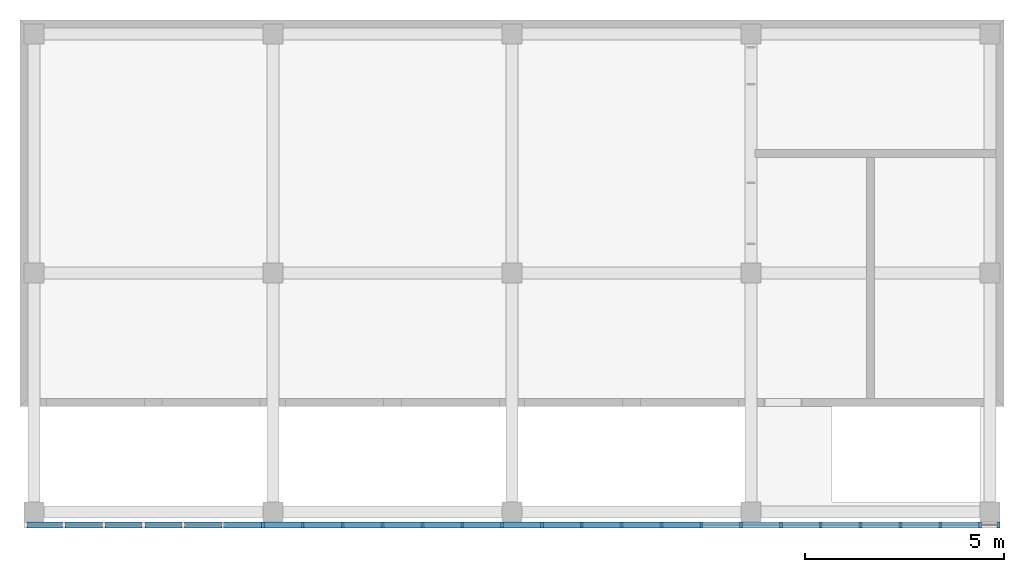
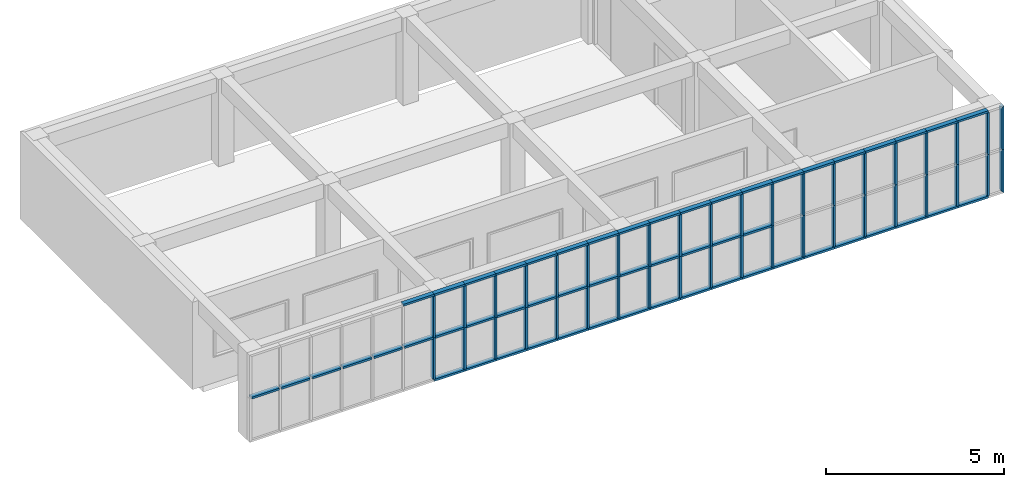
# One storey, part 3 of 4: 94 discrete accessories, 1 element without a shape of its own.
"""IFC2X3 building model written with IfcOpenShell, lengths in millimetres."""

from ifc_helpers import new_model, entity, si_unit, converted_unit, direction, frame, origin_with_axes, place, context, project, spatial, polyline, outline, extrude, source, transform, mapped, type_object, element, aggregate, save


model = new_model("IFC2X3")

# Units and contexts
model_context = context("Model", 3, precision=1e-05, world=origin_with_axes(), true_north=direction((6.123234e-17, 1.0)))
plan_context = context("Plan", 3, precision=1e-05, world=origin_with_axes(), true_north=direction((6.123234e-17, 1.0)))
ifc_project = project(units=[si_unit("LENGTHUNIT", "METRE", prefix="MILLI"), si_unit("AREAUNIT", "SQUARE_METRE"), si_unit("VOLUMEUNIT", "CUBIC_METRE"), converted_unit("PLANEANGLEUNIT", "DEGREE", entity("IfcPlaneAngleMeasure", 0.017453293), si_unit("PLANEANGLEUNIT", "RADIAN"), dimensions=[0, 0, 0, 0, 0, 0, 0]), si_unit("SOLIDANGLEUNIT", "STERADIAN"), si_unit("MASSUNIT", "GRAM"), si_unit("TIMEUNIT", "SECOND"), si_unit("THERMODYNAMICTEMPERATUREUNIT", "DEGREE_CELSIUS"), si_unit("LUMINOUSINTENSITYUNIT", "LUMEN")], contexts=[model_context, plan_context])

# Site, building, storey
site_placement = place(None, origin_with_axes())
site = spatial("IfcSite", under=ifc_project, at=site_placement, Name="\x8aO\x8d\\", CompositionType="ELEMENT")
building_placement = place(site_placement, origin_with_axes())
building = spatial("IfcBuilding", under=site, at=building_placement, Name="20101105_ArchCADMagic_002", CompositionType="ELEMENT")
storey_placement = place(building_placement, frame((0.0, 0.0, 6450.0), z_axis=(0.0, 0.0, 1.0), x_axis=(1.0, 0.0, 0.0)))
storey = spatial("IfcBuildingStorey", under=building, at=storey_placement, Name="2. 3\x8aK", CompositionType="ELEMENT", Elevation=6450.0)

# Curtain wall, discrete accessories
curtain_wall_placement = place(storey_placement, frame((-250.0, -325.0, 0.0), z_axis=(0.0, 0.0, 1.0), x_axis=(1.0, 0.0, 0.0)))
curtain_wall = element("IfcCurtainWall", 1, at=curtain_wall_placement, inside=storey, Name="CW5")
discrete_accessory_type = type_object("IfcDiscreteAccessoryType", Name="AC12_CW_Frame")
shared_shape_1 = source(origin_with_axes(), model_context, "Body", "SweptSolid", [
    extrude(outline(polyline([(0.0, 0.0), (150.0, 0.0), (150.0, -1000.0), (5.5511151e-14, -1000.0), (0.0, 0.0)])), origin_with_axes(), (0.0, 0.0, 1.0), 70.0),
])
discrete_accessory_1_placement = place(storey_placement, frame((5750.0, -250.0, 70.0), z_axis=(0.0, 0.0, -1.0), x_axis=(0.0, -1.0, 0.0)))
discrete_accessory_1 = element("IfcDiscreteAccessory", 2, at=discrete_accessory_1_placement, type_object=discrete_accessory_type, Name="\x8b«\x8aE-729", context=model_context, shape_type="MappedRepresentation", body=[
    mapped(shared_shape_1, transform((0.0, 0.0, 0.0), scale=1.0)),
])
discrete_accessory_2_placement = place(storey_placement, frame((6750.0, -250.0, 70.0), z_axis=(0.0, 0.0, -1.0), x_axis=(0.0, -1.0, 0.0)))
discrete_accessory_2 = element("IfcDiscreteAccessory", 3, at=discrete_accessory_2_placement, type_object=discrete_accessory_type, Name="\x8b«\x8aE-730", context=model_context, shape_type="MappedRepresentation", body=[
    mapped(shared_shape_1, transform((0.0, 0.0, 0.0), scale=1.0)),
])
discrete_accessory_3_placement = place(storey_placement, frame((7750.0, -250.0, 70.0), z_axis=(0.0, 0.0, -1.0), x_axis=(0.0, -1.0, 0.0)))
discrete_accessory_3 = element("IfcDiscreteAccessory", 4, at=discrete_accessory_3_placement, type_object=discrete_accessory_type, Name="\x8b«\x8aE-731", context=model_context, shape_type="MappedRepresentation", body=[
    mapped(shared_shape_1, transform((0.0, 0.0, 0.0), scale=1.0)),
])
discrete_accessory_4_placement = place(storey_placement, frame((8750.0, -250.0, 70.0), z_axis=(0.0, 0.0, -1.0), x_axis=(0.0, -1.0, 0.0)))
discrete_accessory_4 = element("IfcDiscreteAccessory", 5, at=discrete_accessory_4_placement, type_object=discrete_accessory_type, Name="\x8b«\x8aE-732", context=model_context, shape_type="MappedRepresentation", body=[
    mapped(shared_shape_1, transform((0.0, 0.0, 0.0), scale=1.0)),
])
discrete_accessory_5_placement = place(storey_placement, frame((9750.0, -250.0, 70.0), z_axis=(0.0, 0.0, -1.0), x_axis=(0.0, -1.0, 0.0)))
discrete_accessory_5 = element("IfcDiscreteAccessory", 6, at=discrete_accessory_5_placement, type_object=discrete_accessory_type, Name="\x8b«\x8aE-733", context=model_context, shape_type="MappedRepresentation", body=[
    mapped(shared_shape_1, transform((0.0, 0.0, 0.0), scale=1.0)),
])
discrete_accessory_6_placement = place(storey_placement, frame((10750.0, -250.0, 70.0), z_axis=(0.0, 0.0, -1.0), x_axis=(0.0, -1.0, 0.0)))
discrete_accessory_6 = element("IfcDiscreteAccessory", 7, at=discrete_accessory_6_placement, type_object=discrete_accessory_type, Name="\x8b«\x8aE-734", context=model_context, shape_type="MappedRepresentation", body=[
    mapped(shared_shape_1, transform((0.0, 0.0, 0.0), scale=1.0)),
])
discrete_accessory_7_placement = place(storey_placement, frame((11750.0, -250.0, 70.0), z_axis=(0.0, 0.0, -1.0), x_axis=(0.0, -1.0, 0.0)))
discrete_accessory_7 = element("IfcDiscreteAccessory", 8, at=discrete_accessory_7_placement, type_object=discrete_accessory_type, Name="\x8b«\x8aE-735", context=model_context, shape_type="MappedRepresentation", body=[
    mapped(shared_shape_1, transform((0.0, 0.0, 0.0), scale=1.0)),
])
discrete_accessory_8_placement = place(storey_placement, frame((12750.0, -250.0, 70.0), z_axis=(0.0, 0.0, -1.0), x_axis=(0.0, -1.0, 0.0)))
discrete_accessory_8 = element("IfcDiscreteAccessory", 9, at=discrete_accessory_8_placement, type_object=discrete_accessory_type, Name="\x8b«\x8aE-736", context=model_context, shape_type="MappedRepresentation", body=[
    mapped(shared_shape_1, transform((0.0, 0.0, 0.0), scale=1.0)),
])
discrete_accessory_9_placement = place(storey_placement, frame((13750.0, -250.0, 70.0), z_axis=(0.0, 0.0, -1.0), x_axis=(0.0, -1.0, 0.0)))
discrete_accessory_9 = element("IfcDiscreteAccessory", 10, at=discrete_accessory_9_placement, type_object=discrete_accessory_type, Name="\x8b«\x8aE-737", context=model_context, shape_type="MappedRepresentation", body=[
    mapped(shared_shape_1, transform((0.0, 0.0, 0.0), scale=1.0)),
])
discrete_accessory_10_placement = place(storey_placement, frame((14750.0, -250.0, 70.0), z_axis=(0.0, 0.0, -1.0), x_axis=(0.0, -1.0, 0.0)))
discrete_accessory_10 = element("IfcDiscreteAccessory", 11, at=discrete_accessory_10_placement, type_object=discrete_accessory_type, Name="\x8b«\x8aE-738", context=model_context, shape_type="MappedRepresentation", body=[
    mapped(shared_shape_1, transform((0.0, 0.0, 0.0), scale=1.0)),
])
discrete_accessory_11_placement = place(storey_placement, frame((15750.0, -250.0, 70.0), z_axis=(0.0, 0.0, -1.0), x_axis=(0.0, -1.0, 0.0)))
discrete_accessory_11 = element("IfcDiscreteAccessory", 12, at=discrete_accessory_11_placement, type_object=discrete_accessory_type, Name="\x8b«\x8aE-739", context=model_context, shape_type="MappedRepresentation", body=[
    mapped(shared_shape_1, transform((0.0, 0.0, 0.0), scale=1.0)),
])
discrete_accessory_12_placement = place(storey_placement, frame((16750.0, -250.0, 70.0), z_axis=(0.0, 0.0, -1.0), x_axis=(0.0, -1.0, 0.0)))
discrete_accessory_12 = element("IfcDiscreteAccessory", 13, at=discrete_accessory_12_placement, type_object=discrete_accessory_type, Name="\x8b«\x8aE-740", context=model_context, shape_type="MappedRepresentation", body=[
    mapped(shared_shape_1, transform((0.0, 0.0, 0.0), scale=1.0)),
])
discrete_accessory_13_placement = place(storey_placement, frame((17750.0, -250.0, 70.0), z_axis=(0.0, 0.0, -1.0), x_axis=(0.0, -1.0, 0.0)))
discrete_accessory_13 = element("IfcDiscreteAccessory", 14, at=discrete_accessory_13_placement, type_object=discrete_accessory_type, Name="\x8b«\x8aE-741", context=model_context, shape_type="MappedRepresentation", body=[
    mapped(shared_shape_1, transform((0.0, 0.0, 0.0), scale=1.0)),
])
discrete_accessory_14_placement = place(storey_placement, frame((18750.0, -250.0, 70.0), z_axis=(0.0, 0.0, -1.0), x_axis=(0.0, -1.0, 0.0)))
discrete_accessory_14 = element("IfcDiscreteAccessory", 15, at=discrete_accessory_14_placement, type_object=discrete_accessory_type, Name="\x8b«\x8aE-742", context=model_context, shape_type="MappedRepresentation", body=[
    mapped(shared_shape_1, transform((0.0, 0.0, 0.0), scale=1.0)),
])
discrete_accessory_15_placement = place(storey_placement, frame((19750.0, -250.0, 70.0), z_axis=(0.0, 0.0, -1.0), x_axis=(0.0, -1.0, 0.0)))
discrete_accessory_15 = element("IfcDiscreteAccessory", 16, at=discrete_accessory_15_placement, type_object=discrete_accessory_type, Name="\x8b«\x8aE-743", context=model_context, shape_type="MappedRepresentation", body=[
    mapped(shared_shape_1, transform((0.0, 0.0, 0.0), scale=1.0)),
])
discrete_accessory_16_placement = place(storey_placement, frame((20750.0, -250.0, 70.0), z_axis=(0.0, 0.0, -1.0), x_axis=(0.0, -1.0, 0.0)))
discrete_accessory_16 = element("IfcDiscreteAccessory", 17, at=discrete_accessory_16_placement, type_object=discrete_accessory_type, Name="\x8b«\x8aE-744", context=model_context, shape_type="MappedRepresentation", body=[
    mapped(shared_shape_1, transform((0.0, 0.0, 0.0), scale=1.0)),
])
discrete_accessory_17_placement = place(storey_placement, frame((21750.0, -250.0, 70.0), z_axis=(0.0, 0.0, -1.0), x_axis=(0.0, -1.0, 0.0)))
discrete_accessory_17 = element("IfcDiscreteAccessory", 18, at=discrete_accessory_17_placement, type_object=discrete_accessory_type, Name="\x8b«\x8aE-745", context=model_context, shape_type="MappedRepresentation", body=[
    mapped(shared_shape_1, transform((0.0, 0.0, 0.0), scale=1.0)),
])
discrete_accessory_18_placement = place(storey_placement, frame((22750.0, -250.0, 70.0), z_axis=(0.0, 0.0, -1.0), x_axis=(0.0, -1.0, 0.0)))
discrete_accessory_18 = element("IfcDiscreteAccessory", 19, at=discrete_accessory_18_placement, type_object=discrete_accessory_type, Name="\x8b«\x8aE-746", context=model_context, shape_type="MappedRepresentation", body=[
    mapped(shared_shape_1, transform((0.0, 0.0, 0.0), scale=1.0)),
])
discrete_accessory_19_placement = place(storey_placement, frame((4750.0, -250.0, 3000.0), z_axis=(0.0, 0.0, -1.0), x_axis=(0.0, -1.0, 0.0)))
discrete_accessory_19 = element("IfcDiscreteAccessory", 20, at=discrete_accessory_19_placement, type_object=discrete_accessory_type, Name="\x8b«\x8aE-819", context=model_context, shape_type="MappedRepresentation", body=[
    mapped(shared_shape_1, transform((0.0, 0.0, 0.0), scale=1.0)),
])
discrete_accessory_20_placement = place(storey_placement, frame((5750.0, -250.0, 3000.0), z_axis=(0.0, 0.0, -1.0), x_axis=(0.0, -1.0, 0.0)))
discrete_accessory_20 = element("IfcDiscreteAccessory", 21, at=discrete_accessory_20_placement, type_object=discrete_accessory_type, Name="\x8b«\x8aE-819", context=model_context, shape_type="MappedRepresentation", body=[
    mapped(shared_shape_1, transform((0.0, 0.0, 0.0), scale=1.0)),
])
discrete_accessory_21_placement = place(storey_placement, frame((6750.0, -250.0, 3000.0), z_axis=(0.0, 0.0, -1.0), x_axis=(0.0, -1.0, 0.0)))
discrete_accessory_21 = element("IfcDiscreteAccessory", 22, at=discrete_accessory_21_placement, type_object=discrete_accessory_type, Name="\x8b«\x8aE-819", context=model_context, shape_type="MappedRepresentation", body=[
    mapped(shared_shape_1, transform((0.0, 0.0, 0.0), scale=1.0)),
])
discrete_accessory_22_placement = place(storey_placement, frame((7750.0, -250.0, 3000.0), z_axis=(0.0, 0.0, -1.0), x_axis=(0.0, -1.0, 0.0)))
discrete_accessory_22 = element("IfcDiscreteAccessory", 23, at=discrete_accessory_22_placement, type_object=discrete_accessory_type, Name="\x8b«\x8aE-819", context=model_context, shape_type="MappedRepresentation", body=[
    mapped(shared_shape_1, transform((0.0, 0.0, 0.0), scale=1.0)),
])
discrete_accessory_23_placement = place(storey_placement, frame((8750.0, -250.0, 3000.0), z_axis=(0.0, 0.0, -1.0), x_axis=(0.0, -1.0, 0.0)))
discrete_accessory_23 = element("IfcDiscreteAccessory", 24, at=discrete_accessory_23_placement, type_object=discrete_accessory_type, Name="\x8b«\x8aE-819", context=model_context, shape_type="MappedRepresentation", body=[
    mapped(shared_shape_1, transform((0.0, 0.0, 0.0), scale=1.0)),
])
discrete_accessory_24_placement = place(storey_placement, frame((9750.0, -250.0, 3000.0), z_axis=(0.0, 0.0, -1.0), x_axis=(0.0, -1.0, 0.0)))
discrete_accessory_24 = element("IfcDiscreteAccessory", 25, at=discrete_accessory_24_placement, type_object=discrete_accessory_type, Name="\x8b«\x8aE-819", context=model_context, shape_type="MappedRepresentation", body=[
    mapped(shared_shape_1, transform((0.0, 0.0, 0.0), scale=1.0)),
])
discrete_accessory_25_placement = place(storey_placement, frame((10750.0, -250.0, 3000.0), z_axis=(0.0, 0.0, -1.0), x_axis=(0.0, -1.0, 0.0)))
discrete_accessory_25 = element("IfcDiscreteAccessory", 26, at=discrete_accessory_25_placement, type_object=discrete_accessory_type, Name="\x8b«\x8aE-819", context=model_context, shape_type="MappedRepresentation", body=[
    mapped(shared_shape_1, transform((0.0, 0.0, 0.0), scale=1.0)),
])
discrete_accessory_26_placement = place(storey_placement, frame((11750.0, -250.0, 3000.0), z_axis=(0.0, 0.0, -1.0), x_axis=(0.0, -1.0, 0.0)))
discrete_accessory_26 = element("IfcDiscreteAccessory", 27, at=discrete_accessory_26_placement, type_object=discrete_accessory_type, Name="\x8b«\x8aE-819", context=model_context, shape_type="MappedRepresentation", body=[
    mapped(shared_shape_1, transform((0.0, 0.0, 0.0), scale=1.0)),
])
discrete_accessory_27_placement = place(storey_placement, frame((12750.0, -250.0, 3000.0), z_axis=(0.0, 0.0, -1.0), x_axis=(0.0, -1.0, 0.0)))
discrete_accessory_27 = element("IfcDiscreteAccessory", 28, at=discrete_accessory_27_placement, type_object=discrete_accessory_type, Name="\x8b«\x8aE-819", context=model_context, shape_type="MappedRepresentation", body=[
    mapped(shared_shape_1, transform((0.0, 0.0, 0.0), scale=1.0)),
])
discrete_accessory_28_placement = place(storey_placement, frame((13750.0, -250.0, 3000.0), z_axis=(0.0, 0.0, -1.0), x_axis=(0.0, -1.0, 0.0)))
discrete_accessory_28 = element("IfcDiscreteAccessory", 29, at=discrete_accessory_28_placement, type_object=discrete_accessory_type, Name="\x8b«\x8aE-819", context=model_context, shape_type="MappedRepresentation", body=[
    mapped(shared_shape_1, transform((0.0, 0.0, 0.0), scale=1.0)),
])
discrete_accessory_29_placement = place(storey_placement, frame((14750.0, -250.0, 3000.0), z_axis=(0.0, 0.0, -1.0), x_axis=(0.0, -1.0, 0.0)))
discrete_accessory_29 = element("IfcDiscreteAccessory", 30, at=discrete_accessory_29_placement, type_object=discrete_accessory_type, Name="\x8b«\x8aE-819", context=model_context, shape_type="MappedRepresentation", body=[
    mapped(shared_shape_1, transform((0.0, 0.0, 0.0), scale=1.0)),
])
discrete_accessory_30_placement = place(storey_placement, frame((15750.0, -250.0, 3000.0), z_axis=(0.0, 0.0, -1.0), x_axis=(0.0, -1.0, 0.0)))
discrete_accessory_30 = element("IfcDiscreteAccessory", 31, at=discrete_accessory_30_placement, type_object=discrete_accessory_type, Name="\x8b«\x8aE-819", context=model_context, shape_type="MappedRepresentation", body=[
    mapped(shared_shape_1, transform((0.0, 0.0, 0.0), scale=1.0)),
])
discrete_accessory_31_placement = place(storey_placement, frame((16750.0, -250.0, 3000.0), z_axis=(0.0, 0.0, -1.0), x_axis=(0.0, -1.0, 0.0)))
discrete_accessory_31 = element("IfcDiscreteAccessory", 32, at=discrete_accessory_31_placement, type_object=discrete_accessory_type, Name="\x8b«\x8aE-819", context=model_context, shape_type="MappedRepresentation", body=[
    mapped(shared_shape_1, transform((0.0, 0.0, 0.0), scale=1.0)),
])
discrete_accessory_32_placement = place(storey_placement, frame((17750.0, -250.0, 3000.0), z_axis=(0.0, 0.0, -1.0), x_axis=(0.0, -1.0, 0.0)))
discrete_accessory_32 = element("IfcDiscreteAccessory", 33, at=discrete_accessory_32_placement, type_object=discrete_accessory_type, Name="\x8b«\x8aE-819", context=model_context, shape_type="MappedRepresentation", body=[
    mapped(shared_shape_1, transform((0.0, 0.0, 0.0), scale=1.0)),
])
discrete_accessory_33_placement = place(storey_placement, frame((18750.0, -250.0, 3000.0), z_axis=(0.0, 0.0, -1.0), x_axis=(0.0, -1.0, 0.0)))
discrete_accessory_33 = element("IfcDiscreteAccessory", 34, at=discrete_accessory_33_placement, type_object=discrete_accessory_type, Name="\x8b«\x8aE-819", context=model_context, shape_type="MappedRepresentation", body=[
    mapped(shared_shape_1, transform((0.0, 0.0, 0.0), scale=1.0)),
])
discrete_accessory_34_placement = place(storey_placement, frame((19750.0, -250.0, 3000.0), z_axis=(0.0, 0.0, -1.0), x_axis=(0.0, -1.0, 0.0)))
discrete_accessory_34 = element("IfcDiscreteAccessory", 35, at=discrete_accessory_34_placement, type_object=discrete_accessory_type, Name="\x8b«\x8aE-819", context=model_context, shape_type="MappedRepresentation", body=[
    mapped(shared_shape_1, transform((0.0, 0.0, 0.0), scale=1.0)),
])
discrete_accessory_35_placement = place(storey_placement, frame((20750.0, -250.0, 3000.0), z_axis=(0.0, 0.0, -1.0), x_axis=(0.0, -1.0, 0.0)))
discrete_accessory_35 = element("IfcDiscreteAccessory", 36, at=discrete_accessory_35_placement, type_object=discrete_accessory_type, Name="\x8b«\x8aE-819", context=model_context, shape_type="MappedRepresentation", body=[
    mapped(shared_shape_1, transform((0.0, 0.0, 0.0), scale=1.0)),
])
discrete_accessory_36_placement = place(storey_placement, frame((21750.0, -250.0, 3000.0), z_axis=(0.0, 0.0, -1.0), x_axis=(0.0, -1.0, 0.0)))
discrete_accessory_36 = element("IfcDiscreteAccessory", 37, at=discrete_accessory_36_placement, type_object=discrete_accessory_type, Name="\x8b«\x8aE-819", context=model_context, shape_type="MappedRepresentation", body=[
    mapped(shared_shape_1, transform((0.0, 0.0, 0.0), scale=1.0)),
])
discrete_accessory_37_placement = place(storey_placement, frame((22750.0, -250.0, 3000.0), z_axis=(0.0, 0.0, -1.0), x_axis=(0.0, -1.0, 0.0)))
discrete_accessory_37 = element("IfcDiscreteAccessory", 38, at=discrete_accessory_37_placement, type_object=discrete_accessory_type, Name="\x8b«\x8aE-819", context=model_context, shape_type="MappedRepresentation", body=[
    mapped(shared_shape_1, transform((0.0, 0.0, 0.0), scale=1.0)),
])
shared_shape_2 = source(origin_with_axes(), model_context, "Body", "SweptSolid", [
    extrude(outline(polyline([(0.0, 0.0), (150.0, 0.0), (150.0, -1430.0), (0.0, -1430.0), (0.0, 0.0)])), origin_with_axes(), (0.0, 0.0, 1.0), 70.0),
])
discrete_accessory_38_placement = place(storey_placement, frame((5715.0, -250.0, 70.0), z_axis=(1.0, 0.0, 0.0), x_axis=(0.0, -1.0, 0.0)))
discrete_accessory_38 = element("IfcDiscreteAccessory", 39, at=discrete_accessory_38_placement, type_object=discrete_accessory_type, Name="\x83}\x83\x8a\x83I\x83\x93-644", context=model_context, shape_type="MappedRepresentation", body=[
    mapped(shared_shape_2, transform((0.0, 0.0, 0.0), scale=1.0)),
])
discrete_accessory_39_placement = place(storey_placement, frame((6715.0, -250.0, 70.0), z_axis=(1.0, 0.0, 0.0), x_axis=(0.0, -1.0, 0.0)))
discrete_accessory_39 = element("IfcDiscreteAccessory", 40, at=discrete_accessory_39_placement, type_object=discrete_accessory_type, Name="\x83}\x83\x8a\x83I\x83\x93-645", context=model_context, shape_type="MappedRepresentation", body=[
    mapped(shared_shape_2, transform((0.0, 0.0, 0.0), scale=1.0)),
])
discrete_accessory_40_placement = place(storey_placement, frame((7715.0, -250.0, 70.0), z_axis=(1.0, 0.0, 0.0), x_axis=(0.0, -1.0, 0.0)))
discrete_accessory_40 = element("IfcDiscreteAccessory", 41, at=discrete_accessory_40_placement, type_object=discrete_accessory_type, Name="\x83}\x83\x8a\x83I\x83\x93-646", context=model_context, shape_type="MappedRepresentation", body=[
    mapped(shared_shape_2, transform((0.0, 0.0, 0.0), scale=1.0)),
])
discrete_accessory_41_placement = place(storey_placement, frame((8715.0, -250.0, 70.0), z_axis=(1.0, 0.0, 0.0), x_axis=(0.0, -1.0, 0.0)))
discrete_accessory_41 = element("IfcDiscreteAccessory", 42, at=discrete_accessory_41_placement, type_object=discrete_accessory_type, Name="\x83}\x83\x8a\x83I\x83\x93-647", context=model_context, shape_type="MappedRepresentation", body=[
    mapped(shared_shape_2, transform((0.0, 0.0, 0.0), scale=1.0)),
])
discrete_accessory_42_placement = place(storey_placement, frame((9715.0, -250.0, 70.0), z_axis=(1.0, 0.0, 0.0), x_axis=(0.0, -1.0, 0.0)))
discrete_accessory_42 = element("IfcDiscreteAccessory", 43, at=discrete_accessory_42_placement, type_object=discrete_accessory_type, Name="\x83}\x83\x8a\x83I\x83\x93-648", context=model_context, shape_type="MappedRepresentation", body=[
    mapped(shared_shape_2, transform((0.0, 0.0, 0.0), scale=1.0)),
])
discrete_accessory_43_placement = place(storey_placement, frame((10715.0, -250.0, 70.0), z_axis=(1.0, 0.0, 0.0), x_axis=(0.0, -1.0, 0.0)))
discrete_accessory_43 = element("IfcDiscreteAccessory", 44, at=discrete_accessory_43_placement, type_object=discrete_accessory_type, Name="\x83}\x83\x8a\x83I\x83\x93-649", context=model_context, shape_type="MappedRepresentation", body=[
    mapped(shared_shape_2, transform((0.0, 0.0, 0.0), scale=1.0)),
])
discrete_accessory_44_placement = place(storey_placement, frame((11715.0, -250.0, 70.0), z_axis=(1.0, 0.0, 0.0), x_axis=(0.0, -1.0, 0.0)))
discrete_accessory_44 = element("IfcDiscreteAccessory", 45, at=discrete_accessory_44_placement, type_object=discrete_accessory_type, Name="\x83}\x83\x8a\x83I\x83\x93-650", context=model_context, shape_type="MappedRepresentation", body=[
    mapped(shared_shape_2, transform((0.0, 0.0, 0.0), scale=1.0)),
])
discrete_accessory_45_placement = place(storey_placement, frame((12715.0, -250.0, 70.0), z_axis=(1.0, 0.0, 0.0), x_axis=(0.0, -1.0, 0.0)))
discrete_accessory_45 = element("IfcDiscreteAccessory", 46, at=discrete_accessory_45_placement, type_object=discrete_accessory_type, Name="\x83}\x83\x8a\x83I\x83\x93-651", context=model_context, shape_type="MappedRepresentation", body=[
    mapped(shared_shape_2, transform((0.0, 0.0, 0.0), scale=1.0)),
])
discrete_accessory_46_placement = place(storey_placement, frame((13715.0, -250.0, 70.0), z_axis=(1.0, 0.0, 0.0), x_axis=(0.0, -1.0, 0.0)))
discrete_accessory_46 = element("IfcDiscreteAccessory", 47, at=discrete_accessory_46_placement, type_object=discrete_accessory_type, Name="\x83}\x83\x8a\x83I\x83\x93-652", context=model_context, shape_type="MappedRepresentation", body=[
    mapped(shared_shape_2, transform((0.0, 0.0, 0.0), scale=1.0)),
])
discrete_accessory_47_placement = place(storey_placement, frame((14715.0, -250.0, 70.0), z_axis=(1.0, 0.0, 0.0), x_axis=(0.0, -1.0, 0.0)))
discrete_accessory_47 = element("IfcDiscreteAccessory", 48, at=discrete_accessory_47_placement, type_object=discrete_accessory_type, Name="\x83}\x83\x8a\x83I\x83\x93-653", context=model_context, shape_type="MappedRepresentation", body=[
    mapped(shared_shape_2, transform((0.0, 0.0, 0.0), scale=1.0)),
])
discrete_accessory_48_placement = place(storey_placement, frame((15715.0, -250.0, 70.0), z_axis=(1.0, 0.0, 0.0), x_axis=(0.0, -1.0, 0.0)))
discrete_accessory_48 = element("IfcDiscreteAccessory", 49, at=discrete_accessory_48_placement, type_object=discrete_accessory_type, Name="\x83}\x83\x8a\x83I\x83\x93-654", context=model_context, shape_type="MappedRepresentation", body=[
    mapped(shared_shape_2, transform((0.0, 0.0, 0.0), scale=1.0)),
])
discrete_accessory_49_placement = place(storey_placement, frame((16715.0, -250.0, 70.0), z_axis=(1.0, 0.0, 0.0), x_axis=(0.0, -1.0, 0.0)))
discrete_accessory_49 = element("IfcDiscreteAccessory", 50, at=discrete_accessory_49_placement, type_object=discrete_accessory_type, Name="\x83}\x83\x8a\x83I\x83\x93-655", context=model_context, shape_type="MappedRepresentation", body=[
    mapped(shared_shape_2, transform((0.0, 0.0, 0.0), scale=1.0)),
])
discrete_accessory_50_placement = place(storey_placement, frame((17715.0, -250.0, 70.0), z_axis=(1.0, 0.0, 0.0), x_axis=(0.0, -1.0, 0.0)))
discrete_accessory_50 = element("IfcDiscreteAccessory", 51, at=discrete_accessory_50_placement, type_object=discrete_accessory_type, Name="\x83}\x83\x8a\x83I\x83\x93-656", context=model_context, shape_type="MappedRepresentation", body=[
    mapped(shared_shape_2, transform((0.0, 0.0, 0.0), scale=1.0)),
])
discrete_accessory_51_placement = place(storey_placement, frame((18715.0, -250.0, 70.0), z_axis=(1.0, 0.0, 0.0), x_axis=(0.0, -1.0, 0.0)))
discrete_accessory_51 = element("IfcDiscreteAccessory", 52, at=discrete_accessory_51_placement, type_object=discrete_accessory_type, Name="\x83}\x83\x8a\x83I\x83\x93-657", context=model_context, shape_type="MappedRepresentation", body=[
    mapped(shared_shape_2, transform((0.0, 0.0, 0.0), scale=1.0)),
])
discrete_accessory_52_placement = place(storey_placement, frame((19715.0, -250.0, 70.0), z_axis=(1.0, 0.0, 0.0), x_axis=(0.0, -1.0, 0.0)))
discrete_accessory_52 = element("IfcDiscreteAccessory", 53, at=discrete_accessory_52_placement, type_object=discrete_accessory_type, Name="\x83}\x83\x8a\x83I\x83\x93-658", context=model_context, shape_type="MappedRepresentation", body=[
    mapped(shared_shape_2, transform((0.0, 0.0, 0.0), scale=1.0)),
])
discrete_accessory_53_placement = place(storey_placement, frame((20715.0, -250.0, 70.0), z_axis=(1.0, 0.0, 0.0), x_axis=(0.0, -1.0, 0.0)))
discrete_accessory_53 = element("IfcDiscreteAccessory", 54, at=discrete_accessory_53_placement, type_object=discrete_accessory_type, Name="\x83}\x83\x8a\x83I\x83\x93-659", context=model_context, shape_type="MappedRepresentation", body=[
    mapped(shared_shape_2, transform((0.0, 0.0, 0.0), scale=1.0)),
])
discrete_accessory_54_placement = place(storey_placement, frame((21715.0, -250.0, 70.0), z_axis=(1.0, 0.0, 0.0), x_axis=(0.0, -1.0, 0.0)))
discrete_accessory_54 = element("IfcDiscreteAccessory", 55, at=discrete_accessory_54_placement, type_object=discrete_accessory_type, Name="\x83}\x83\x8a\x83I\x83\x93-660", context=model_context, shape_type="MappedRepresentation", body=[
    mapped(shared_shape_2, transform((0.0, 0.0, 0.0), scale=1.0)),
])
discrete_accessory_55_placement = place(storey_placement, frame((22715.0, -250.0, 70.0), z_axis=(1.0, 0.0, 0.0), x_axis=(0.0, -1.0, 0.0)))
discrete_accessory_55 = element("IfcDiscreteAccessory", 56, at=discrete_accessory_55_placement, type_object=discrete_accessory_type, Name="\x83}\x83\x8a\x83I\x83\x93-661", context=model_context, shape_type="MappedRepresentation", body=[
    mapped(shared_shape_2, transform((0.0, 0.0, 0.0), scale=1.0)),
])
discrete_accessory_56_placement = place(storey_placement, frame((23715.0, -250.0, 70.0), z_axis=(1.0, 0.0, 0.0), x_axis=(0.0, -1.0, 0.0)))
discrete_accessory_56 = element("IfcDiscreteAccessory", 57, at=discrete_accessory_56_placement, type_object=discrete_accessory_type, Name="\x83}\x83\x8a\x83I\x83\x93-662", context=model_context, shape_type="MappedRepresentation", body=[
    mapped(shared_shape_2, transform((0.0, 0.0, 0.0), scale=1.0)),
])
discrete_accessory_57_placement = place(storey_placement, frame((5715.0, -250.0, 1500.0), z_axis=(1.0, 0.0, 0.0), x_axis=(0.0, -1.0, 0.0)))
discrete_accessory_57 = element("IfcDiscreteAccessory", 58, at=discrete_accessory_57_placement, type_object=discrete_accessory_type, Name="\x83}\x83\x8a\x83I\x83\x93-668", context=model_context, shape_type="MappedRepresentation", body=[
    mapped(shared_shape_2, transform((0.0, 0.0, 0.0), scale=1.0)),
])
discrete_accessory_58_placement = place(storey_placement, frame((6715.0, -250.0, 1500.0), z_axis=(1.0, 0.0, 0.0), x_axis=(0.0, -1.0, 0.0)))
discrete_accessory_58 = element("IfcDiscreteAccessory", 59, at=discrete_accessory_58_placement, type_object=discrete_accessory_type, Name="\x83}\x83\x8a\x83I\x83\x93-669", context=model_context, shape_type="MappedRepresentation", body=[
    mapped(shared_shape_2, transform((0.0, 0.0, 0.0), scale=1.0)),
])
discrete_accessory_59_placement = place(storey_placement, frame((7715.0, -250.0, 1500.0), z_axis=(1.0, 0.0, 0.0), x_axis=(0.0, -1.0, 0.0)))
discrete_accessory_59 = element("IfcDiscreteAccessory", 60, at=discrete_accessory_59_placement, type_object=discrete_accessory_type, Name="\x83}\x83\x8a\x83I\x83\x93-670", context=model_context, shape_type="MappedRepresentation", body=[
    mapped(shared_shape_2, transform((0.0, 0.0, 0.0), scale=1.0)),
])
discrete_accessory_60_placement = place(storey_placement, frame((8715.0, -250.0, 1500.0), z_axis=(1.0, 0.0, 0.0), x_axis=(0.0, -1.0, 0.0)))
discrete_accessory_60 = element("IfcDiscreteAccessory", 61, at=discrete_accessory_60_placement, type_object=discrete_accessory_type, Name="\x83}\x83\x8a\x83I\x83\x93-671", context=model_context, shape_type="MappedRepresentation", body=[
    mapped(shared_shape_2, transform((0.0, 0.0, 0.0), scale=1.0)),
])
discrete_accessory_61_placement = place(storey_placement, frame((9715.0, -250.0, 1500.0), z_axis=(1.0, 0.0, 0.0), x_axis=(0.0, -1.0, 0.0)))
discrete_accessory_61 = element("IfcDiscreteAccessory", 62, at=discrete_accessory_61_placement, type_object=discrete_accessory_type, Name="\x83}\x83\x8a\x83I\x83\x93-672", context=model_context, shape_type="MappedRepresentation", body=[
    mapped(shared_shape_2, transform((0.0, 0.0, 0.0), scale=1.0)),
])
discrete_accessory_62_placement = place(storey_placement, frame((10715.0, -250.0, 1500.0), z_axis=(1.0, 0.0, 0.0), x_axis=(0.0, -1.0, 0.0)))
discrete_accessory_62 = element("IfcDiscreteAccessory", 63, at=discrete_accessory_62_placement, type_object=discrete_accessory_type, Name="\x83}\x83\x8a\x83I\x83\x93-673", context=model_context, shape_type="MappedRepresentation", body=[
    mapped(shared_shape_2, transform((0.0, 0.0, 0.0), scale=1.0)),
])
discrete_accessory_63_placement = place(storey_placement, frame((11715.0, -250.0, 1500.0), z_axis=(1.0, 0.0, 0.0), x_axis=(0.0, -1.0, 0.0)))
discrete_accessory_63 = element("IfcDiscreteAccessory", 64, at=discrete_accessory_63_placement, type_object=discrete_accessory_type, Name="\x83}\x83\x8a\x83I\x83\x93-674", context=model_context, shape_type="MappedRepresentation", body=[
    mapped(shared_shape_2, transform((0.0, 0.0, 0.0), scale=1.0)),
])
discrete_accessory_64_placement = place(storey_placement, frame((12715.0, -250.0, 1500.0), z_axis=(1.0, 0.0, 0.0), x_axis=(0.0, -1.0, 0.0)))
discrete_accessory_64 = element("IfcDiscreteAccessory", 65, at=discrete_accessory_64_placement, type_object=discrete_accessory_type, Name="\x83}\x83\x8a\x83I\x83\x93-675", context=model_context, shape_type="MappedRepresentation", body=[
    mapped(shared_shape_2, transform((0.0, 0.0, 0.0), scale=1.0)),
])
discrete_accessory_65_placement = place(storey_placement, frame((13715.0, -250.0, 1500.0), z_axis=(1.0, 0.0, 0.0), x_axis=(0.0, -1.0, 0.0)))
discrete_accessory_65 = element("IfcDiscreteAccessory", 66, at=discrete_accessory_65_placement, type_object=discrete_accessory_type, Name="\x83}\x83\x8a\x83I\x83\x93-676", context=model_context, shape_type="MappedRepresentation", body=[
    mapped(shared_shape_2, transform((0.0, 0.0, 0.0), scale=1.0)),
])
discrete_accessory_66_placement = place(storey_placement, frame((14715.0, -250.0, 1500.0), z_axis=(1.0, 0.0, 0.0), x_axis=(0.0, -1.0, 0.0)))
discrete_accessory_66 = element("IfcDiscreteAccessory", 67, at=discrete_accessory_66_placement, type_object=discrete_accessory_type, Name="\x83}\x83\x8a\x83I\x83\x93-677", context=model_context, shape_type="MappedRepresentation", body=[
    mapped(shared_shape_2, transform((0.0, 0.0, 0.0), scale=1.0)),
])
discrete_accessory_67_placement = place(storey_placement, frame((15715.0, -250.0, 1500.0), z_axis=(1.0, 0.0, 0.0), x_axis=(0.0, -1.0, 0.0)))
discrete_accessory_67 = element("IfcDiscreteAccessory", 68, at=discrete_accessory_67_placement, type_object=discrete_accessory_type, Name="\x83}\x83\x8a\x83I\x83\x93-678", context=model_context, shape_type="MappedRepresentation", body=[
    mapped(shared_shape_2, transform((0.0, 0.0, 0.0), scale=1.0)),
])
discrete_accessory_68_placement = place(storey_placement, frame((16715.0, -250.0, 1500.0), z_axis=(1.0, 0.0, 0.0), x_axis=(0.0, -1.0, 0.0)))
discrete_accessory_68 = element("IfcDiscreteAccessory", 69, at=discrete_accessory_68_placement, type_object=discrete_accessory_type, Name="\x83}\x83\x8a\x83I\x83\x93-679", context=model_context, shape_type="MappedRepresentation", body=[
    mapped(shared_shape_2, transform((0.0, 0.0, 0.0), scale=1.0)),
])
discrete_accessory_69_placement = place(storey_placement, frame((17715.0, -250.0, 1500.0), z_axis=(1.0, 0.0, 0.0), x_axis=(0.0, -1.0, 0.0)))
discrete_accessory_69 = element("IfcDiscreteAccessory", 70, at=discrete_accessory_69_placement, type_object=discrete_accessory_type, Name="\x83}\x83\x8a\x83I\x83\x93-680", context=model_context, shape_type="MappedRepresentation", body=[
    mapped(shared_shape_2, transform((0.0, 0.0, 0.0), scale=1.0)),
])
discrete_accessory_70_placement = place(storey_placement, frame((18715.0, -250.0, 1500.0), z_axis=(1.0, 0.0, 0.0), x_axis=(0.0, -1.0, 0.0)))
discrete_accessory_70 = element("IfcDiscreteAccessory", 71, at=discrete_accessory_70_placement, type_object=discrete_accessory_type, Name="\x83}\x83\x8a\x83I\x83\x93-681", context=model_context, shape_type="MappedRepresentation", body=[
    mapped(shared_shape_2, transform((0.0, 0.0, 0.0), scale=1.0)),
])
discrete_accessory_71_placement = place(storey_placement, frame((19715.0, -250.0, 1500.0), z_axis=(1.0, 0.0, 0.0), x_axis=(0.0, -1.0, 0.0)))
discrete_accessory_71 = element("IfcDiscreteAccessory", 72, at=discrete_accessory_71_placement, type_object=discrete_accessory_type, Name="\x83}\x83\x8a\x83I\x83\x93-682", context=model_context, shape_type="MappedRepresentation", body=[
    mapped(shared_shape_2, transform((0.0, 0.0, 0.0), scale=1.0)),
])
discrete_accessory_72_placement = place(storey_placement, frame((20715.0, -250.0, 1500.0), z_axis=(1.0, 0.0, 0.0), x_axis=(0.0, -1.0, 0.0)))
discrete_accessory_72 = element("IfcDiscreteAccessory", 73, at=discrete_accessory_72_placement, type_object=discrete_accessory_type, Name="\x83}\x83\x8a\x83I\x83\x93-683", context=model_context, shape_type="MappedRepresentation", body=[
    mapped(shared_shape_2, transform((0.0, 0.0, 0.0), scale=1.0)),
])
discrete_accessory_73_placement = place(storey_placement, frame((21715.0, -250.0, 1500.0), z_axis=(1.0, 0.0, 0.0), x_axis=(0.0, -1.0, 0.0)))
discrete_accessory_73 = element("IfcDiscreteAccessory", 74, at=discrete_accessory_73_placement, type_object=discrete_accessory_type, Name="\x83}\x83\x8a\x83I\x83\x93-684", context=model_context, shape_type="MappedRepresentation", body=[
    mapped(shared_shape_2, transform((0.0, 0.0, 0.0), scale=1.0)),
])
discrete_accessory_74_placement = place(storey_placement, frame((22715.0, -250.0, 1500.0), z_axis=(1.0, 0.0, 0.0), x_axis=(0.0, -1.0, 0.0)))
discrete_accessory_74 = element("IfcDiscreteAccessory", 75, at=discrete_accessory_74_placement, type_object=discrete_accessory_type, Name="\x83}\x83\x8a\x83I\x83\x93-685", context=model_context, shape_type="MappedRepresentation", body=[
    mapped(shared_shape_2, transform((0.0, 0.0, 0.0), scale=1.0)),
])
discrete_accessory_75_placement = place(storey_placement, frame((23715.0, -250.0, 1500.0), z_axis=(1.0, 0.0, 0.0), x_axis=(0.0, -1.0, 0.0)))
discrete_accessory_75 = element("IfcDiscreteAccessory", 76, at=discrete_accessory_75_placement, type_object=discrete_accessory_type, Name="\x83}\x83\x8a\x83I\x83\x93-686", context=model_context, shape_type="MappedRepresentation", body=[
    mapped(shared_shape_2, transform((0.0, 0.0, 0.0), scale=1.0)),
])
shared_shape_3 = source(origin_with_axes(), model_context, "Body", "SweptSolid", [
    extrude(outline(polyline([(0.0, 0.0), (150.0, 0.0), (150.0, -895.0), (5.5511151e-14, -895.0), (0.0, 0.0)])), origin_with_axes(), (0.0, 0.0, 1.0), 70.0),
])
discrete_accessory_76_placement = place(storey_placement, frame((-180.0, -250.0, 1535.0), z_axis=(0.0, 0.0, -1.0), x_axis=(0.0, -1.0, 0.0)))
discrete_accessory_76 = element("IfcDiscreteAccessory", 77, at=discrete_accessory_76_placement, type_object=discrete_accessory_type, Name="\x83g\x83\x89\x83\x93\x83U\x83\x80-439", context=model_context, shape_type="MappedRepresentation", body=[
    mapped(shared_shape_3, transform((0.0, 0.0, 0.0), scale=1.0)),
])
shared_shape_4 = source(origin_with_axes(), model_context, "Body", "SweptSolid", [
    extrude(outline(polyline([(0.0, 0.0), (150.0, 0.0), (150.0, -930.0), (5.5511151e-14, -930.0), (0.0, 0.0)])), origin_with_axes(), (0.0, 0.0, 1.0), 70.0),
])
discrete_accessory_77_placement = place(storey_placement, frame((785.0, -250.0, 1535.0), z_axis=(0.0, 0.0, -1.0), x_axis=(0.0, -1.0, 0.0)))
discrete_accessory_77 = element("IfcDiscreteAccessory", 78, at=discrete_accessory_77_placement, type_object=discrete_accessory_type, Name="\x83g\x83\x89\x83\x93\x83U\x83\x80-440", context=model_context, shape_type="MappedRepresentation", body=[
    mapped(shared_shape_4, transform((0.0, 0.0, 0.0), scale=1.0)),
])
discrete_accessory_78_placement = place(storey_placement, frame((1785.0, -250.0, 1535.0), z_axis=(0.0, 0.0, -1.0), x_axis=(0.0, -1.0, 0.0)))
discrete_accessory_78 = element("IfcDiscreteAccessory", 79, at=discrete_accessory_78_placement, type_object=discrete_accessory_type, Name="\x83g\x83\x89\x83\x93\x83U\x83\x80-441", context=model_context, shape_type="MappedRepresentation", body=[
    mapped(shared_shape_4, transform((0.0, 0.0, 0.0), scale=1.0)),
])
discrete_accessory_79_placement = place(storey_placement, frame((2785.0, -250.0, 1535.0), z_axis=(0.0, 0.0, -1.0), x_axis=(0.0, -1.0, 0.0)))
discrete_accessory_79 = element("IfcDiscreteAccessory", 80, at=discrete_accessory_79_placement, type_object=discrete_accessory_type, Name="\x83g\x83\x89\x83\x93\x83U\x83\x80-442", context=model_context, shape_type="MappedRepresentation", body=[
    mapped(shared_shape_4, transform((0.0, 0.0, 0.0), scale=1.0)),
])
discrete_accessory_80_placement = place(storey_placement, frame((3785.0, -250.0, 1535.0), z_axis=(0.0, 0.0, -1.0), x_axis=(0.0, -1.0, 0.0)))
discrete_accessory_80 = element("IfcDiscreteAccessory", 81, at=discrete_accessory_80_placement, type_object=discrete_accessory_type, Name="\x83g\x83\x89\x83\x93\x83U\x83\x80-443", context=model_context, shape_type="MappedRepresentation", body=[
    mapped(shared_shape_4, transform((0.0, 0.0, 0.0), scale=1.0)),
])
discrete_accessory_81_placement = place(storey_placement, frame((4785.0, -250.0, 1535.0), z_axis=(0.0, 0.0, -1.0), x_axis=(0.0, -1.0, 0.0)))
discrete_accessory_81 = element("IfcDiscreteAccessory", 82, at=discrete_accessory_81_placement, type_object=discrete_accessory_type, Name="\x83g\x83\x89\x83\x93\x83U\x83\x80-444", context=model_context, shape_type="MappedRepresentation", body=[
    mapped(shared_shape_4, transform((0.0, 0.0, 0.0), scale=1.0)),
])
discrete_accessory_82_placement = place(storey_placement, frame((5785.0, -250.0, 1535.0), z_axis=(0.0, 0.0, -1.0), x_axis=(0.0, -1.0, 0.0)))
discrete_accessory_82 = element("IfcDiscreteAccessory", 83, at=discrete_accessory_82_placement, type_object=discrete_accessory_type, Name="\x83g\x83\x89\x83\x93\x83U\x83\x80-445", context=model_context, shape_type="MappedRepresentation", body=[
    mapped(shared_shape_4, transform((0.0, 0.0, 0.0), scale=1.0)),
])
discrete_accessory_83_placement = place(storey_placement, frame((6785.0, -250.0, 1535.0), z_axis=(0.0, 0.0, -1.0), x_axis=(0.0, -1.0, 0.0)))
discrete_accessory_83 = element("IfcDiscreteAccessory", 84, at=discrete_accessory_83_placement, type_object=discrete_accessory_type, Name="\x83g\x83\x89\x83\x93\x83U\x83\x80-446", context=model_context, shape_type="MappedRepresentation", body=[
    mapped(shared_shape_4, transform((0.0, 0.0, 0.0), scale=1.0)),
])
discrete_accessory_84_placement = place(storey_placement, frame((7785.0, -250.0, 1535.0), z_axis=(0.0, 0.0, -1.0), x_axis=(0.0, -1.0, 0.0)))
discrete_accessory_84 = element("IfcDiscreteAccessory", 85, at=discrete_accessory_84_placement, type_object=discrete_accessory_type, Name="\x83g\x83\x89\x83\x93\x83U\x83\x80-447", context=model_context, shape_type="MappedRepresentation", body=[
    mapped(shared_shape_4, transform((0.0, 0.0, 0.0), scale=1.0)),
])
discrete_accessory_85_placement = place(storey_placement, frame((8785.0, -250.0, 1535.0), z_axis=(0.0, 0.0, -1.0), x_axis=(0.0, -1.0, 0.0)))
discrete_accessory_85 = element("IfcDiscreteAccessory", 86, at=discrete_accessory_85_placement, type_object=discrete_accessory_type, Name="\x83g\x83\x89\x83\x93\x83U\x83\x80-448", context=model_context, shape_type="MappedRepresentation", body=[
    mapped(shared_shape_4, transform((0.0, 0.0, 0.0), scale=1.0)),
])
discrete_accessory_86_placement = place(storey_placement, frame((9785.0, -250.0, 1535.0), z_axis=(0.0, 0.0, -1.0), x_axis=(0.0, -1.0, 0.0)))
discrete_accessory_86 = element("IfcDiscreteAccessory", 87, at=discrete_accessory_86_placement, type_object=discrete_accessory_type, Name="\x83g\x83\x89\x83\x93\x83U\x83\x80-449", context=model_context, shape_type="MappedRepresentation", body=[
    mapped(shared_shape_4, transform((0.0, 0.0, 0.0), scale=1.0)),
])
discrete_accessory_87_placement = place(storey_placement, frame((10785.0, -250.0, 1535.0), z_axis=(0.0, 0.0, -1.0), x_axis=(0.0, -1.0, 0.0)))
discrete_accessory_87 = element("IfcDiscreteAccessory", 88, at=discrete_accessory_87_placement, type_object=discrete_accessory_type, Name="\x83g\x83\x89\x83\x93\x83U\x83\x80-450", context=model_context, shape_type="MappedRepresentation", body=[
    mapped(shared_shape_4, transform((0.0, 0.0, 0.0), scale=1.0)),
])
discrete_accessory_88_placement = place(storey_placement, frame((11785.0, -250.0, 1535.0), z_axis=(0.0, 0.0, -1.0), x_axis=(0.0, -1.0, 0.0)))
discrete_accessory_88 = element("IfcDiscreteAccessory", 89, at=discrete_accessory_88_placement, type_object=discrete_accessory_type, Name="\x83g\x83\x89\x83\x93\x83U\x83\x80-451", context=model_context, shape_type="MappedRepresentation", body=[
    mapped(shared_shape_4, transform((0.0, 0.0, 0.0), scale=1.0)),
])
discrete_accessory_89_placement = place(storey_placement, frame((12785.0, -250.0, 1535.0), z_axis=(0.0, 0.0, -1.0), x_axis=(0.0, -1.0, 0.0)))
discrete_accessory_89 = element("IfcDiscreteAccessory", 90, at=discrete_accessory_89_placement, type_object=discrete_accessory_type, Name="\x83g\x83\x89\x83\x93\x83U\x83\x80-452", context=model_context, shape_type="MappedRepresentation", body=[
    mapped(shared_shape_4, transform((0.0, 0.0, 0.0), scale=1.0)),
])
discrete_accessory_90_placement = place(storey_placement, frame((13785.0, -250.0, 1535.0), z_axis=(0.0, 0.0, -1.0), x_axis=(0.0, -1.0, 0.0)))
discrete_accessory_90 = element("IfcDiscreteAccessory", 91, at=discrete_accessory_90_placement, type_object=discrete_accessory_type, Name="\x83g\x83\x89\x83\x93\x83U\x83\x80-453", context=model_context, shape_type="MappedRepresentation", body=[
    mapped(shared_shape_4, transform((0.0, 0.0, 0.0), scale=1.0)),
])
discrete_accessory_91_placement = place(storey_placement, frame((14785.0, -250.0, 1535.0), z_axis=(0.0, 0.0, -1.0), x_axis=(0.0, -1.0, 0.0)))
discrete_accessory_91 = element("IfcDiscreteAccessory", 92, at=discrete_accessory_91_placement, type_object=discrete_accessory_type, Name="\x83g\x83\x89\x83\x93\x83U\x83\x80-454", context=model_context, shape_type="MappedRepresentation", body=[
    mapped(shared_shape_4, transform((0.0, 0.0, 0.0), scale=1.0)),
])
discrete_accessory_92_placement = place(storey_placement, frame((15785.0, -250.0, 1535.0), z_axis=(0.0, 0.0, -1.0), x_axis=(0.0, -1.0, 0.0)))
discrete_accessory_92 = element("IfcDiscreteAccessory", 93, at=discrete_accessory_92_placement, type_object=discrete_accessory_type, Name="\x83g\x83\x89\x83\x93\x83U\x83\x80-455", context=model_context, shape_type="MappedRepresentation", body=[
    mapped(shared_shape_4, transform((0.0, 0.0, 0.0), scale=1.0)),
])
shared_shape_5 = source(origin_with_axes(), model_context, "Body", "SweptSolid", [
    extrude(outline(polyline([(0.0, 0.0), (70.0, 0.0), (70.0, -1500.0), (0.0, -1430.0), (0.0, 0.0)])), origin_with_axes(), (0.0, 0.0, 1.0), 150.0),
])
discrete_accessory_93_placement = place(storey_placement, frame((24180.0, -400.0, 1500.0), z_axis=(0.0, 1.0, 0.0), x_axis=(1.0, 0.0, 0.0)))
discrete_accessory_93 = element("IfcDiscreteAccessory", 94, at=discrete_accessory_93_placement, type_object=discrete_accessory_type, Name="\x8b«\x8aE-816", context=model_context, shape_type="MappedRepresentation", body=[
    mapped(shared_shape_5, transform((0.0, 0.0, 0.0), scale=1.0)),
])
shared_shape_6 = source(origin_with_axes(), model_context, "Body", "SweptSolid", [
    extrude(outline(polyline([(0.0, 0.0), (98.994949, 0.0), (-961.66522, -1060.6602), (-1011.1627, -1011.1627), (0.0, 0.0)])), origin_with_axes(), (0.0, 0.0, 1.0), 150.0),
])
discrete_accessory_94_placement = place(storey_placement, frame((24180.0, -400.0, 70.0), z_axis=(0.0, 1.0, 0.0), x_axis=(0.70710678, 0.0, -0.70710678)))
discrete_accessory_94 = element("IfcDiscreteAccessory", 95, at=discrete_accessory_94_placement, type_object=discrete_accessory_type, Name="\x8b«\x8aE-817", context=model_context, shape_type="MappedRepresentation", body=[
    mapped(shared_shape_6, transform((0.0, 0.0, 0.0), scale=1.0)),
])
aggregate(curtain_wall, [discrete_accessory_1, discrete_accessory_38, discrete_accessory_2, discrete_accessory_39, discrete_accessory_3, discrete_accessory_40, discrete_accessory_4, discrete_accessory_41, discrete_accessory_5, discrete_accessory_42, discrete_accessory_6, discrete_accessory_43, discrete_accessory_7, discrete_accessory_44, discrete_accessory_8, discrete_accessory_45, discrete_accessory_9, discrete_accessory_46, discrete_accessory_10, discrete_accessory_47, discrete_accessory_11, discrete_accessory_48, discrete_accessory_12, discrete_accessory_49, discrete_accessory_13, discrete_accessory_50, discrete_accessory_14, discrete_accessory_51, discrete_accessory_15, discrete_accessory_52, discrete_accessory_16, discrete_accessory_53, discrete_accessory_17, discrete_accessory_54, discrete_accessory_18, discrete_accessory_55, discrete_accessory_56, discrete_accessory_76, discrete_accessory_77, discrete_accessory_78, discrete_accessory_79, discrete_accessory_80, discrete_accessory_81, discrete_accessory_82, discrete_accessory_57, discrete_accessory_83, discrete_accessory_58, discrete_accessory_84, discrete_accessory_59, discrete_accessory_85, discrete_accessory_60, discrete_accessory_86, discrete_accessory_61, discrete_accessory_87, discrete_accessory_62, discrete_accessory_88, discrete_accessory_63, discrete_accessory_89, discrete_accessory_64, discrete_accessory_90, discrete_accessory_65, discrete_accessory_91, discrete_accessory_66, discrete_accessory_92, discrete_accessory_67, discrete_accessory_68, discrete_accessory_69, discrete_accessory_70, discrete_accessory_71, discrete_accessory_72, discrete_accessory_73, discrete_accessory_74, discrete_accessory_75, discrete_accessory_19, discrete_accessory_20, discrete_accessory_21, discrete_accessory_22, discrete_accessory_23, discrete_accessory_24, discrete_accessory_25, discrete_accessory_26, discrete_accessory_27, discrete_accessory_28, discrete_accessory_29, discrete_accessory_30, discrete_accessory_31, discrete_accessory_32, discrete_accessory_33, discrete_accessory_34, discrete_accessory_35, discrete_accessory_36, discrete_accessory_37, discrete_accessory_93, discrete_accessory_94])

save(model, "model.ifc")
